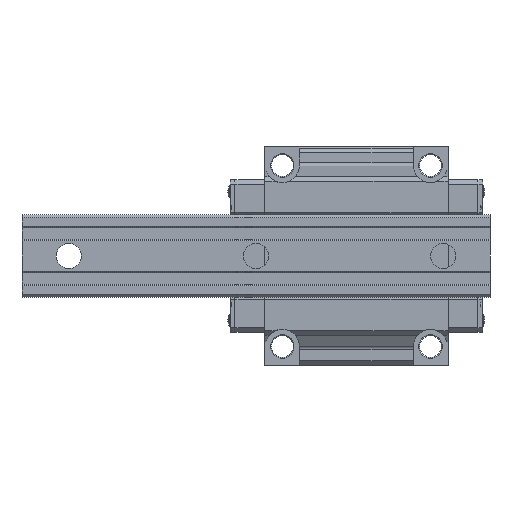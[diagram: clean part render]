
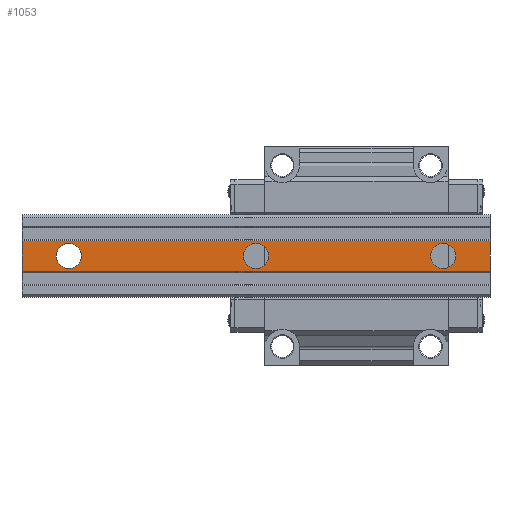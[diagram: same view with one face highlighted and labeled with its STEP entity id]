
A CAD part, front view. The second image highlights one B-rep face of the part: STEP entity #1053.
In plain terms, the highlighted planar face has unit normal (0, -1, 0).
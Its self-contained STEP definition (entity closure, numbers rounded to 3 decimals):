
#1053 = ADVANCED_FACE( '', ( #2346, #2347, #2348, #2349 ), #2350, .F. );
#2346 = FACE_BOUND( '', #3971, .T. );
#2347 = FACE_BOUND( '', #3972, .T. );
#2348 = FACE_BOUND( '', #3973, .T. );
#2349 = FACE_OUTER_BOUND( '', #3974, .T. );
#2350 = PLANE( '', #3975 );
#3971 = EDGE_LOOP( '', ( #6753 ) );
#3972 = EDGE_LOOP( '', ( #6754 ) );
#3973 = EDGE_LOOP( '', ( #6755 ) );
#3974 = EDGE_LOOP( '', ( #6756, #6757, #6758, #6759 ) );
#3975 = AXIS2_PLACEMENT_3D( '', #6760, #6761, #6762 );
#6753 = ORIENTED_EDGE( '', *, *, #10665, .F. );
#6754 = ORIENTED_EDGE( '', *, *, #10444, .F. );
#6755 = ORIENTED_EDGE( '', *, *, #10666, .F. );
#6756 = ORIENTED_EDGE( '', *, *, #9922, .F. );
#6757 = ORIENTED_EDGE( '', *, *, #10617, .F. );
#6758 = ORIENTED_EDGE( '', *, *, #10667, .T. );
#6759 = ORIENTED_EDGE( '', *, *, #9791, .T. );
#6760 = CARTESIAN_POINT( '', ( 150., 0., 24.5 ) );
#6761 = DIRECTION( '', ( 0., 1., 0. ) );
#6762 = DIRECTION( '', ( 0., 0., 1. ) );
#9791 = EDGE_CURVE( '', #11677, #11675, #11678, .T. );
#9922 = EDGE_CURVE( '', #11914, #11675, #11916, .T. );
#10444 = EDGE_CURVE( '', #12794, #12794, #12795, .T. );
#10617 = EDGE_CURVE( '', #13072, #11914, #13074, .T. );
#10665 = EDGE_CURVE( '', #13150, #13150, #13151, .T. );
#10666 = EDGE_CURVE( '', #13152, #13152, #13153, .T. );
#10667 = EDGE_CURVE( '', #13072, #11677, #13154, .T. );
#11675 = VERTEX_POINT( '', #14442 );
#11677 = VERTEX_POINT( '', #14445 );
#11678 = LINE( '', #14446, #14447 );
#11914 = VERTEX_POINT( '', #14781 );
#11916 = LINE( '', #14784, #14785 );
#12794 = VERTEX_POINT( '', #16092 );
#12795 = CIRCLE( '', #16093, 8. );
#13072 = VERTEX_POINT( '', #16499 );
#13074 = LINE( '', #16502, #16503 );
#13150 = VERTEX_POINT( '', #16607 );
#13151 = CIRCLE( '', #16608, 8. );
#13152 = VERTEX_POINT( '', #16609 );
#13153 = CIRCLE( '', #16610, 8. );
#13154 = LINE( '', #16611, #16612 );
#14442 = CARTESIAN_POINT( '', ( -150., 0., -9.75 ) );
#14445 = CARTESIAN_POINT( '', ( -150., 0., 9.75 ) );
#14446 = CARTESIAN_POINT( '', ( -150., 0., 24.5 ) );
#14447 = VECTOR( '', #18161, 1000. );
#14781 = CARTESIAN_POINT( '', ( 150., 0., -9.75 ) );
#14784 = CARTESIAN_POINT( '', ( 150., 0., -9.75 ) );
#14785 = VECTOR( '', #18315, 1000. );
#16092 = CARTESIAN_POINT( '', ( 120., 0., -8. ) );
#16093 = AXIS2_PLACEMENT_3D( '', #18863, #18864, #18865 );
#16499 = CARTESIAN_POINT( '', ( 150., 0., 9.75 ) );
#16502 = CARTESIAN_POINT( '', ( 150., 0., 24.5 ) );
#16503 = VECTOR( '', #19056, 1000. );
#16607 = CARTESIAN_POINT( '', ( 0., 0., -8. ) );
#16608 = AXIS2_PLACEMENT_3D( '', #19115, #19116, #19117 );
#16609 = CARTESIAN_POINT( '', ( -120., 0., -8. ) );
#16610 = AXIS2_PLACEMENT_3D( '', #19118, #19119, #19120 );
#16611 = CARTESIAN_POINT( '', ( 150., 0., 9.75 ) );
#16612 = VECTOR( '', #19121, 1000. );
#18161 = DIRECTION( '', ( 0., 0., -1. ) );
#18315 = DIRECTION( '', ( -1., 0., 0. ) );
#18863 = CARTESIAN_POINT( '', ( 120., 0., 0. ) );
#18864 = DIRECTION( '', ( 0., -1., 0. ) );
#18865 = DIRECTION( '', ( 0., 0., -1. ) );
#19056 = DIRECTION( '', ( 0., 0., -1. ) );
#19115 = CARTESIAN_POINT( '', ( 0., 0., 0. ) );
#19116 = DIRECTION( '', ( 0., -1., 0. ) );
#19117 = DIRECTION( '', ( 0., 0., -1. ) );
#19118 = CARTESIAN_POINT( '', ( -120., 0., 0. ) );
#19119 = DIRECTION( '', ( 0., -1., 0. ) );
#19120 = DIRECTION( '', ( 0., 0., -1. ) );
#19121 = DIRECTION( '', ( -1., 0., 0. ) );
